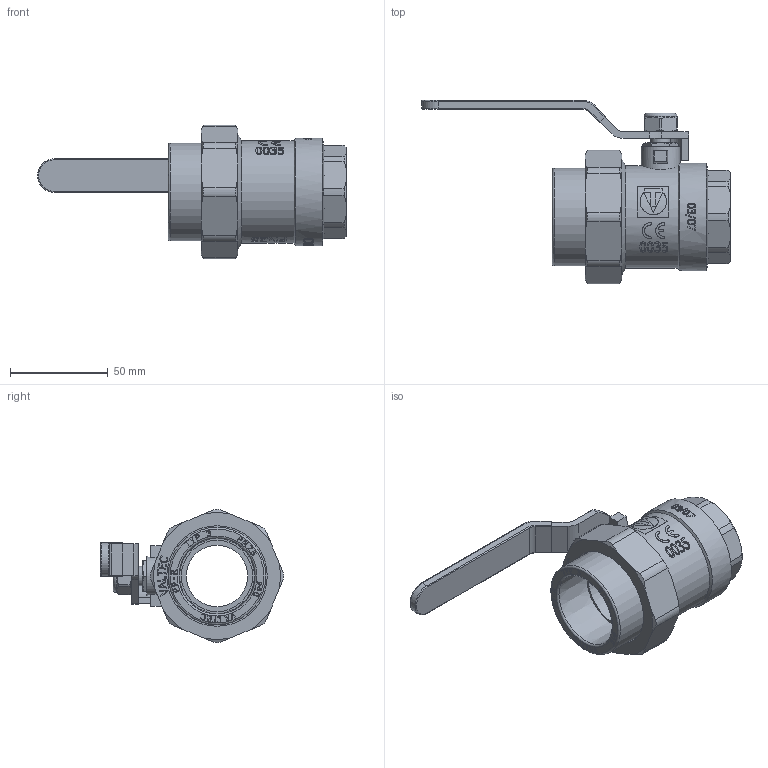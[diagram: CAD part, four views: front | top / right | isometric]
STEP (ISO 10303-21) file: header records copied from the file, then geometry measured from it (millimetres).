
FILE_DESCRIPTION(/* description */ (''),/* implementation_level */ '2;1');
FILE_NAME(/* name */ 'E:\Артём\00000\Работа удаленка\VTp.742\VTp.742.0.04007.stp',/* time_stamp */ '2020-05-20T13:13:10+03:00',/* author */ ('BeN_GaN'),/* organization */ (''),/* preprocessor_version */ 'ST-DEVELOPER v18',/* originating_system */ 'Autodesk Inventor 2020',/* authorisation */ '');
FILE_SCHEMA (('AUTOMOTIVE_DESIGN { 1 0 10303 214 3 1 1 }'));
Products named in the file (1): VTp.742.0.04007
Bounding box: 158.27 x 93.9 x 68.28 mm (x, y, z)
Volume: 131220.4 mm3; surface area: 56633.9 mm2
Topology: 1 solids, 4 shells, 1372 faces, 3765 edges, 2516 vertices
Faces by surface type: plane 771, bspline 389, cylinder 143, cone 52, torus 15, sphere 2
Full cylindrical faces by diameter (mm): 10 x1, 10.3 x1, 10.4 x1, 12 x1, 14.1 x1, 14.5 x2, 16.8 x1, 20 x1, 31.5 x2, 31.8 x2, 32.836 x1, 36.5 x1, 36.776 x1, 39 x1, 42 x2, 45.97 x1, 48.5 x1, 50 x1, 51.5 x1, 52.5 x1, 54 x1, 55 x1, 59.6 x1
Entity records: 50518 total; most frequent: CARTESIAN_POINT 18113, ORIENTED_EDGE 7526, DIRECTION 5320, EDGE_CURVE 3763, VERTEX_POINT 2516, LINE 2284, VECTOR 2284, AXIS2_PLACEMENT_3D 1518
